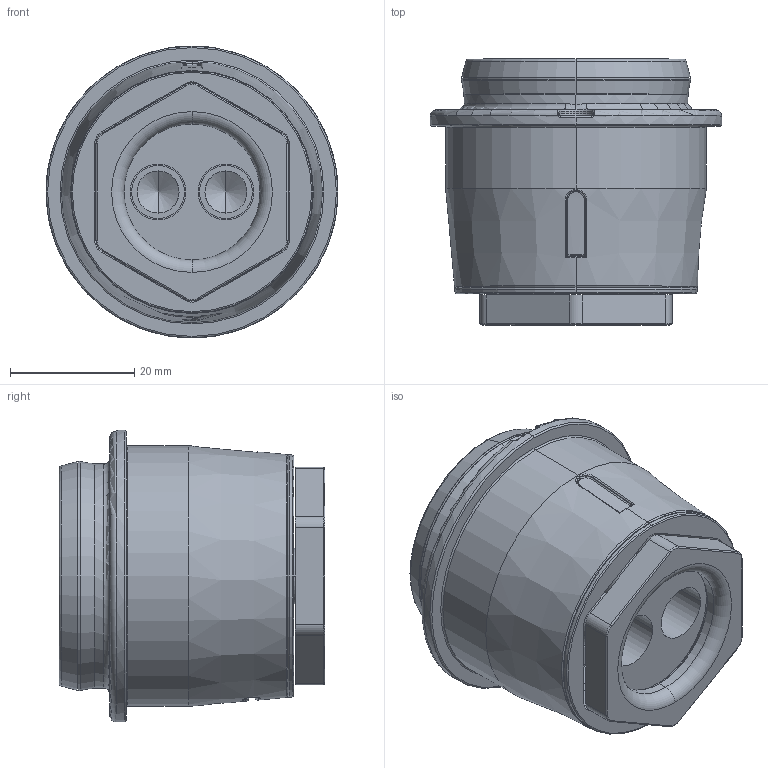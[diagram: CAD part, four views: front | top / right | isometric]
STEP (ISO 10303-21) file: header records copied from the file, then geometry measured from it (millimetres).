
FILE_DESCRIPTION((''),'2;1');
FILE_NAME('LCN-EC8X2-PMF_ASM','2025-06-27T12:53:06',('Neil'),(''),'CREO PARAMETRIC BY PTC INC, 2023134','CREO PARAMETRIC BY PTC INC, 2023134','');
FILE_SCHEMA(('AUTOMOTIVE_DESIGN { 1 0 10303 214 1 1 1 1 }'));
Length unit declared in the file: millimetre
Products named in the file (1): LCN-EC8X2-PMF_ASM
Bounding box: 46.9 x 42.71 x 46.9 mm (x, y, z)
Surface area: 13565.5 mm2 (no closed solid volume)
Topology: 0 solids, 16 shells, 186 faces, 512 edges, 329 vertices
Faces by surface type: cylinder 52, bspline 43, torus 34, cone 30, plane 27
Entity records: 12588 total; most frequent: CARTESIAN_POINT 6840, DIRECTION 937, ORIENTED_EDGE 837, EDGE_CURVE 504, AXIS2_PLACEMENT_3D 397, VERTEX_POINT 329, CIRCLE 253, EDGE_LOOP 203
